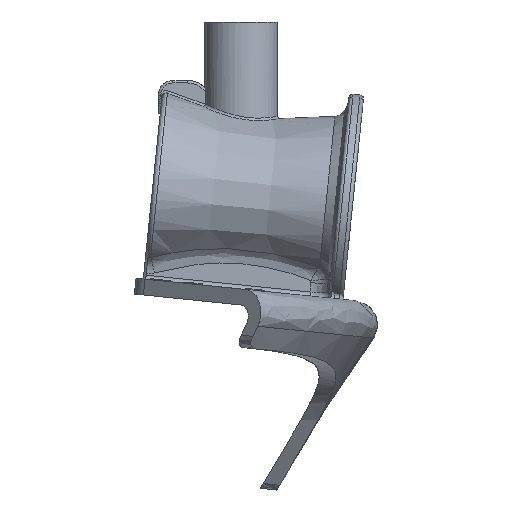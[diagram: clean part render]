
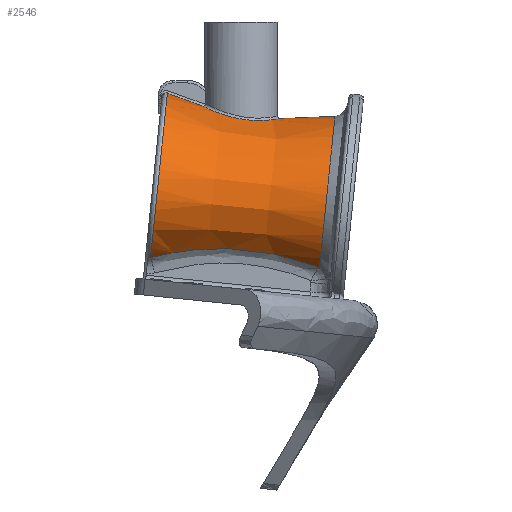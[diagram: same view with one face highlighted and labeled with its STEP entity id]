
A CAD part, left-side view. The second image highlights one B-rep face of the part: STEP entity #2546.
In plain terms, the highlighted free-form (B-spline) face has degree [3, 3] with [4, 8] control points.
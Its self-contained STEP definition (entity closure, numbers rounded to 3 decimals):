
#492=FACE_OUTER_BOUND('',#665,.T.);
#665=EDGE_LOOP('',(#2154,#2155,#2156,#2157,#2158,#2159,#2160));
#836=B_SPLINE_CURVE_WITH_KNOTS('',3,(#6158,#6159,#6160,#6161),
 .UNSPECIFIED.,.F.,.F.,(4,4),(-0.703,-0.477),
 .UNSPECIFIED.);
#856=B_SPLINE_CURVE_WITH_KNOTS('',3,(#6860,#6861,#6862,#6863),
 .UNSPECIFIED.,.F.,.F.,(4,4),(-0.697,-0.543),
 .UNSPECIFIED.);
#860=B_SPLINE_CURVE_WITH_KNOTS('',3,(#6990,#6991,#6992,#6993,#6994,#6995,
#6996,#6997,#6998),.UNSPECIFIED.,.F.,.F.,(4,1,1,1,1,1,4),(-0.468,
-0.408,-0.34,-0.272,-0.204,
-0.068,0.),.UNSPECIFIED.);
#882=B_SPLINE_CURVE_WITH_KNOTS('',3,(#7416,#7417,#7418,#7419,#7420,#7421,
#7422,#7423),.UNSPECIFIED.,.F.,.F.,(4,1,1,1,1,4),(1.642,2.24,
2.574,3.243,3.578,3.913),
 .UNSPECIFIED.);
#907=B_SPLINE_CURVE_WITH_KNOTS('',3,(#8049,#8050,#8051,#8052,#8053,#8054,
#8055,#8056),.UNSPECIFIED.,.F.,.F.,(4,1,1,1,1,4),(1.571,2.223,
2.548,3.2,3.526,3.852),
 .UNSPECIFIED.);
#908=B_SPLINE_CURVE_WITH_KNOTS('',3,(#8093,#8094,#8095,#8096,#8097),
 .UNSPECIFIED.,.F.,.F.,(4,1,4),(-6.613,-2.834,0.),
 .UNSPECIFIED.);
#909=B_SPLINE_CURVE_WITH_KNOTS('',3,(#8098,#8099,#8100,#8101),
 .UNSPECIFIED.,.F.,.F.,(4,4),(-0.135,0.),.UNSPECIFIED.);
#1019=VERTEX_POINT('',#4927);
#1069=VERTEX_POINT('',#6099);
#1105=VERTEX_POINT('',#6857);
#1106=VERTEX_POINT('',#6859);
#1128=VERTEX_POINT('',#7410);
#1142=VERTEX_POINT('',#8048);
#1143=VERTEX_POINT('',#8092);
#1356=EDGE_CURVE('',#1069,#1019,#836,.T.);
#1430=EDGE_CURVE('',#1105,#1106,#856,.T.);
#1435=EDGE_CURVE('',#1106,#1019,#860,.T.);
#1466=EDGE_CURVE('',#1105,#1128,#882,.T.);
#1497=EDGE_CURVE('',#1069,#1142,#907,.T.);
#1500=EDGE_CURVE('',#1143,#1128,#908,.T.);
#1501=EDGE_CURVE('',#1142,#1143,#909,.T.);
#2154=ORIENTED_EDGE('',*,*,#1430,.F.);
#2155=ORIENTED_EDGE('',*,*,#1466,.T.);
#2156=ORIENTED_EDGE('',*,*,#1500,.F.);
#2157=ORIENTED_EDGE('',*,*,#1501,.F.);
#2158=ORIENTED_EDGE('',*,*,#1497,.F.);
#2159=ORIENTED_EDGE('',*,*,#1356,.T.);
#2160=ORIENTED_EDGE('',*,*,#1435,.F.);
#2418=B_SPLINE_SURFACE_WITH_KNOTS('',3,3,((#8060,#8061,#8062,#8063,#8064,
#8065,#8066,#8067),(#8068,#8069,#8070,#8071,#8072,#8073,#8074,#8075),(#8076,
#8077,#8078,#8079,#8080,#8081,#8082,#8083),(#8084,#8085,#8086,#8087,#8088,
#8089,#8090,#8091)),.UNSPECIFIED.,.F.,.F.,.F.,(4,4),(4,1,1,1,1,4),(-0.532,
0.),(1.571,2.24,2.574,
3.243,3.578,3.913),.UNSPECIFIED.);
#2546=ADVANCED_FACE('',(#492),#2418,.T.);
#4927=CARTESIAN_POINT('',(0.257,-21.148,209.868));
#6099=CARTESIAN_POINT('',(0.257,-23.398,209.963));
#6158=CARTESIAN_POINT('Ctrl Pts',(0.257,-23.398,209.963));
#6159=CARTESIAN_POINT('Ctrl Pts',(0.257,-22.653,209.867));
#6160=CARTESIAN_POINT('Ctrl Pts',(0.257,-21.899,209.837));
#6161=CARTESIAN_POINT('Ctrl Pts',(0.257,-21.148,209.87));
#6857=CARTESIAN_POINT('',(-0.156,-16.526,210.907));
#6859=CARTESIAN_POINT('',(-0.155,-17.979,210.384));
#6860=CARTESIAN_POINT('Ctrl Pts',(-0.156,-16.526,
210.907));
#6861=CARTESIAN_POINT('Ctrl Pts',(-0.156,-17.,
210.705));
#6862=CARTESIAN_POINT('Ctrl Pts',(-0.155,-17.485,
210.53));
#6863=CARTESIAN_POINT('Ctrl Pts',(-0.155,-17.979,
210.384));
#6990=CARTESIAN_POINT('Ctrl Pts',(-0.155,-17.979,
210.384));
#6991=CARTESIAN_POINT('Ctrl Pts',(-0.343,-18.031,
210.358));
#6992=CARTESIAN_POINT('Ctrl Pts',(-0.719,-18.218,
210.265));
#6993=CARTESIAN_POINT('Ctrl Pts',(-1.139,-18.693,210.066));
#6994=CARTESIAN_POINT('Ctrl Pts',(-1.353,-19.327,209.879));
#6995=CARTESIAN_POINT('Ctrl Pts',(-1.282,-20.257,209.752));
#6996=CARTESIAN_POINT('Ctrl Pts',(-0.64,-21.006,
209.839));
#6997=CARTESIAN_POINT('Ctrl Pts',(0.033,-21.148,
209.868));
#6998=CARTESIAN_POINT('Ctrl Pts',(0.257,-21.148,209.868));
#7410=CARTESIAN_POINT('',(-3.855,-15.838,204.172));
#7416=CARTESIAN_POINT('Ctrl Pts',(-0.156,-16.526,
210.907));
#7417=CARTESIAN_POINT('Ctrl Pts',(-1.308,-16.52,210.843));
#7418=CARTESIAN_POINT('Ctrl Pts',(-3.057,-16.468,210.334));
#7419=CARTESIAN_POINT('Ctrl Pts',(-5.059,-16.296,208.655));
#7420=CARTESIAN_POINT('Ctrl Pts',(-5.589,-16.12,206.928));
#7421=CARTESIAN_POINT('Ctrl Pts',(-4.979,-15.949,205.264));
#7422=CARTESIAN_POINT('Ctrl Pts',(-4.286,-15.872,204.504));
#7423=CARTESIAN_POINT('Ctrl Pts',(-3.855,-15.838,204.172));
#8048=CARTESIAN_POINT('',(-3.915,-22.772,203.84));
#8049=CARTESIAN_POINT('Ctrl Pts',(0.257,-23.398,209.963));
#8050=CARTESIAN_POINT('Ctrl Pts',(-0.964,-23.398,
209.963));
#8051=CARTESIAN_POINT('Ctrl Pts',(-2.782,-23.35,209.494));
#8052=CARTESIAN_POINT('Ctrl Pts',(-4.766,-23.187,207.895));
#8053=CARTESIAN_POINT('Ctrl Pts',(-5.3,-23.03,206.362));
#8054=CARTESIAN_POINT('Ctrl Pts',(-4.857,-22.878,204.876));
#8055=CARTESIAN_POINT('Ctrl Pts',(-4.285,-22.805,204.161));
#8056=CARTESIAN_POINT('Ctrl Pts',(-3.915,-22.772,203.84));
#8060=CARTESIAN_POINT('Ctrl Pts',(0.257,-23.398,209.963));
#8061=CARTESIAN_POINT('Ctrl Pts',(-0.996,-23.398,209.963));
#8062=CARTESIAN_POINT('Ctrl Pts',(-2.862,-23.348,209.468));
#8063=CARTESIAN_POINT('Ctrl Pts',(-4.842,-23.177,207.797));
#8064=CARTESIAN_POINT('Ctrl Pts',(-5.316,-23.016,206.223));
#8065=CARTESIAN_POINT('Ctrl Pts',(-4.762,-22.86,204.699));
#8066=CARTESIAN_POINT('Ctrl Pts',(-4.111,-22.786,203.98));
#8067=CARTESIAN_POINT('Ctrl Pts',(-3.701,-22.754,203.665));
#8068=CARTESIAN_POINT('Ctrl Pts',(0.257,-21.078,209.665));
#8069=CARTESIAN_POINT('Ctrl Pts',(-0.907,-21.078,
209.665));
#8070=CARTESIAN_POINT('Ctrl Pts',(-2.639,-21.03,209.201));
#8071=CARTESIAN_POINT('Ctrl Pts',(-4.382,-20.877,207.704));
#8072=CARTESIAN_POINT('Ctrl Pts',(-4.737,-20.749,206.453));
#8073=CARTESIAN_POINT('Ctrl Pts',(-4.303,-20.624,205.227));
#8074=CARTESIAN_POINT('Ctrl Pts',(-3.74,-20.559,204.596));
#8075=CARTESIAN_POINT('Ctrl Pts',(-3.376,-20.531,204.316));
#8076=CARTESIAN_POINT('Ctrl Pts',(0.257,-18.679,209.999));
#8077=CARTESIAN_POINT('Ctrl Pts',(-0.921,-18.679,
209.999));
#8078=CARTESIAN_POINT('Ctrl Pts',(-2.675,-18.631,209.529));
#8079=CARTESIAN_POINT('Ctrl Pts',(-4.458,-18.475,208.003));
#8080=CARTESIAN_POINT('Ctrl Pts',(-4.832,-18.342,206.7));
#8081=CARTESIAN_POINT('Ctrl Pts',(-4.378,-18.211,205.424));
#8082=CARTESIAN_POINT('Ctrl Pts',(-3.801,-18.145,204.779));
#8083=CARTESIAN_POINT('Ctrl Pts',(-3.429,-18.116,204.493));
#8084=CARTESIAN_POINT('Ctrl Pts',(0.257,-16.528,210.918));
#8085=CARTESIAN_POINT('Ctrl Pts',(-1.038,-16.528,210.918));
#8086=CARTESIAN_POINT('Ctrl Pts',(-2.968,-16.475,210.408));
#8087=CARTESIAN_POINT('Ctrl Pts',(-5.059,-16.296,208.655));
#8088=CARTESIAN_POINT('Ctrl Pts',(-5.589,-16.12,206.928));
#8089=CARTESIAN_POINT('Ctrl Pts',(-4.979,-15.949,205.264));
#8090=CARTESIAN_POINT('Ctrl Pts',(-4.286,-15.872,204.504));
#8091=CARTESIAN_POINT('Ctrl Pts',(-3.855,-15.838,204.172));
#8092=CARTESIAN_POINT('',(-3.824,-22.728,203.778));
#8093=CARTESIAN_POINT('Ctrl Pts',(-3.824,-22.728,203.778));
#8094=CARTESIAN_POINT('Ctrl Pts',(-3.787,-21.486,204.261));
#8095=CARTESIAN_POINT('Ctrl Pts',(-3.756,-19.143,204.731));
#8096=CARTESIAN_POINT('Ctrl Pts',(-3.822,-16.804,204.418));
#8097=CARTESIAN_POINT('Ctrl Pts',(-3.855,-15.838,204.172));
#8098=CARTESIAN_POINT('Ctrl Pts',(-3.915,-22.772,203.84));
#8099=CARTESIAN_POINT('Ctrl Pts',(-3.885,-22.77,203.814));
#8100=CARTESIAN_POINT('Ctrl Pts',(-3.853,-22.756,203.791));
#8101=CARTESIAN_POINT('Ctrl Pts',(-3.824,-22.728,203.778));
